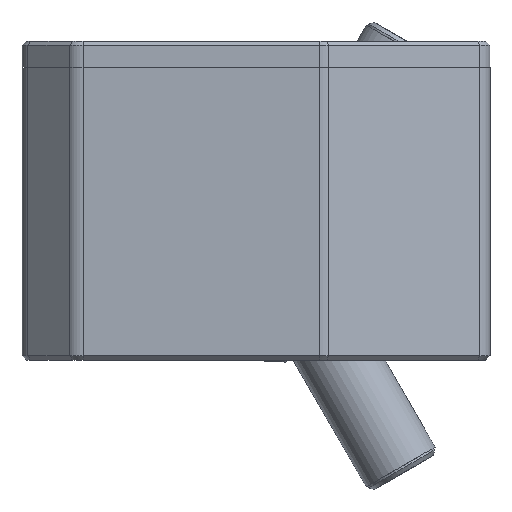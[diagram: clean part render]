
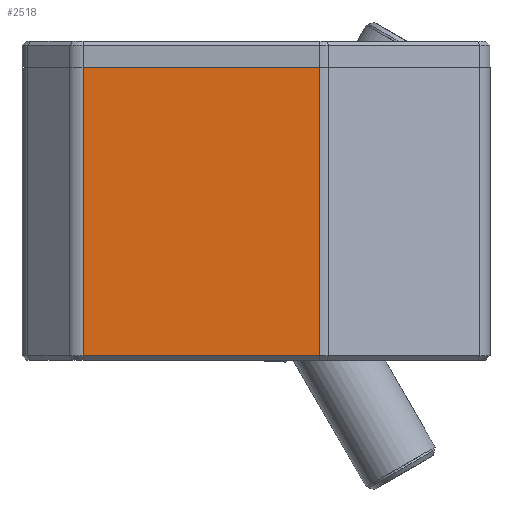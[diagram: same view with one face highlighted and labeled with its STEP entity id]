
A CAD part, left-side view. The second image highlights one B-rep face of the part: STEP entity #2518.
In plain terms, the highlighted planar face has unit normal (-1, 0, 0).
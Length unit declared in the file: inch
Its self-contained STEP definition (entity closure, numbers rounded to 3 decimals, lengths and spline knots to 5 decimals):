
#1063=CARTESIAN_POINT('',(23.15903,-8.63665,-6.759));
#1064=VERTEX_POINT('',#1063);
#1088=CARTESIAN_POINT('',(23.15903,-7.52199,-6.759));
#1089=VERTEX_POINT('',#1088);
#1090=CARTESIAN_POINT('',(23.15903,-8.63665,-6.759));
#1091=DIRECTION('',(0.0,1.0,0.0));
#1092=VECTOR('',#1091,1.11466);
#1093=LINE('',#1090,#1092);
#1094=EDGE_CURVE('',#1064,#1089,#1093,.T.);
#1978=CARTESIAN_POINT('',(23.15903,-8.63665,-5.402));
#1979=VERTEX_POINT('',#1978);
#1987=CARTESIAN_POINT('',(23.15903,-8.63665,-6.759));
#1988=DIRECTION('',(0.0,0.0,1.0));
#1989=VECTOR('',#1988,1.357);
#1990=LINE('',#1987,#1989);
#1991=EDGE_CURVE('',#1064,#1979,#1990,.T.);
#2482=CARTESIAN_POINT('',(23.15903,-7.52199,-5.402));
#2483=VERTEX_POINT('',#2482);
#2484=CARTESIAN_POINT('',(23.15903,-7.52199,-6.759));
#2485=DIRECTION('',(0.0,0.0,1.0));
#2486=VECTOR('',#2485,1.357);
#2487=LINE('',#2484,#2486);
#2488=EDGE_CURVE('',#1089,#2483,#2487,.T.);
#2502=CARTESIAN_POINT('',(23.15903,-8.44371,-6.289));
#2503=DIRECTION('',(-1.0,0.0,0.0));
#2504=DIRECTION('',(0.0,0.0,-1.0));
#2505=AXIS2_PLACEMENT_3D('',#2502,#2503,#2504);
#2506=PLANE('',#2505);
#2507=CARTESIAN_POINT('',(23.15903,-8.63665,-5.402));
#2508=DIRECTION('',(0.0,1.0,0.0));
#2509=VECTOR('',#2508,1.11466);
#2510=LINE('',#2507,#2509);
#2511=EDGE_CURVE('',#1979,#2483,#2510,.T.);
#2512=ORIENTED_EDGE('',*,*,#2511,.T.);
#2513=ORIENTED_EDGE('',*,*,#2488,.F.);
#2514=ORIENTED_EDGE('',*,*,#1094,.F.);
#2515=ORIENTED_EDGE('',*,*,#1991,.T.);
#2516=EDGE_LOOP('',(#2512,#2513,#2514,#2515));
#2517=FACE_OUTER_BOUND('',#2516,.T.);
#2518=ADVANCED_FACE('',(#2517),#2506,.T.);
